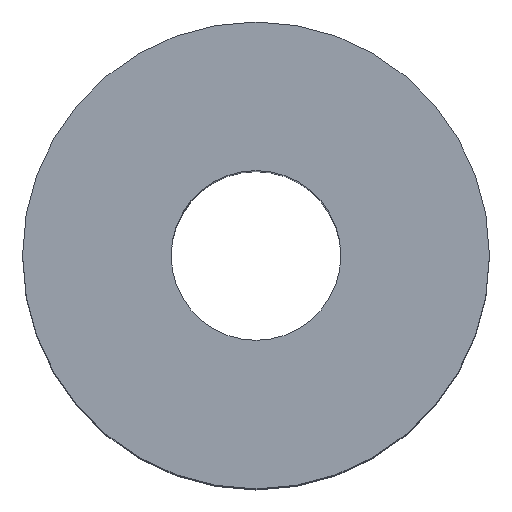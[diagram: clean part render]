
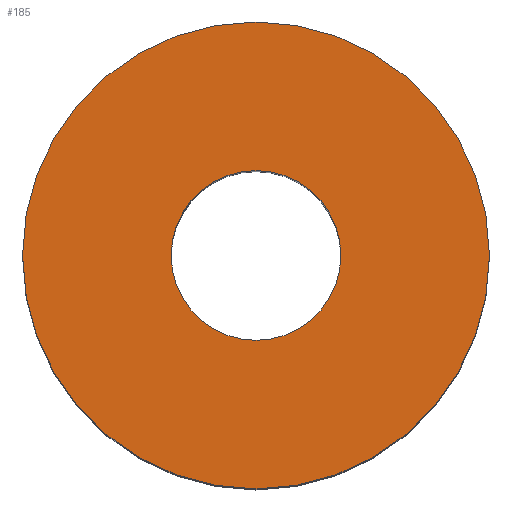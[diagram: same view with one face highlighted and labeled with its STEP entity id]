
A CAD part, top view. The second image highlights one B-rep face of the part: STEP entity #185.
In plain terms, the highlighted planar face has unit normal (0, 0, 1).
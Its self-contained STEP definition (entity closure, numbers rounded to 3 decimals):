
#185=ADVANCED_FACE('',(#211,#212),#209,.T.);
#209=PLANE('',#442);
#211=FACE_BOUND('',#215,.T.);
#212=FACE_BOUND('',#216,.T.);
#215=EDGE_LOOP('',(#241,#242));
#216=EDGE_LOOP('',(#243,#244));
#241=ORIENTED_EDGE('',*,*,#363,.T.);
#242=ORIENTED_EDGE('',*,*,#364,.T.);
#243=ORIENTED_EDGE('',*,*,#365,.F.);
#244=ORIENTED_EDGE('',*,*,#366,.F.);
#337=VERTEX_POINT('',#614);
#338=VERTEX_POINT('',#615);
#339=VERTEX_POINT('',#618);
#340=VERTEX_POINT('',#619);
#363=EDGE_CURVE('',#337,#338,#411,.T.);
#364=EDGE_CURVE('',#338,#337,#412,.T.);
#365=EDGE_CURVE('',#339,#340,#413,.T.);
#366=EDGE_CURVE('',#340,#339,#414,.T.);
#411=CIRCLE('',#438,11.);
#412=CIRCLE('',#439,11.);
#413=CIRCLE('',#440,4.);
#414=CIRCLE('',#441,4.);
#438=AXIS2_PLACEMENT_3D('',#613,#490,#491);
#439=AXIS2_PLACEMENT_3D('',#616,#492,#493);
#440=AXIS2_PLACEMENT_3D('',#617,#494,#495);
#441=AXIS2_PLACEMENT_3D('',#620,#496,#497);
#442=AXIS2_PLACEMENT_3D('',#621,#498,#499);
#490=DIRECTION('',(0.,0.,1.));
#491=DIRECTION('',(0.,-1.,0.));
#492=DIRECTION('',(0.,0.,1.));
#493=DIRECTION('',(0.,1.,0.));
#494=DIRECTION('',(0.,0.,1.));
#495=DIRECTION('',(0.,1.,0.));
#496=DIRECTION('',(0.,0.,1.));
#497=DIRECTION('',(0.,-1.,0.));
#498=DIRECTION('',(0.,0.,1.));
#499=DIRECTION('',(0.,-1.,0.));
#613=CARTESIAN_POINT('',(0.,0.,30.));
#614=CARTESIAN_POINT('',(11.,0.,30.));
#615=CARTESIAN_POINT('',(-11.,0.,30.));
#616=CARTESIAN_POINT('',(0.,0.,30.));
#617=CARTESIAN_POINT('',(0.,0.,30.));
#618=CARTESIAN_POINT('',(-4.,0.,30.));
#619=CARTESIAN_POINT('',(4.,0.,30.));
#620=CARTESIAN_POINT('',(0.,0.,30.));
#621=CARTESIAN_POINT('',(0.,0.,30.));
